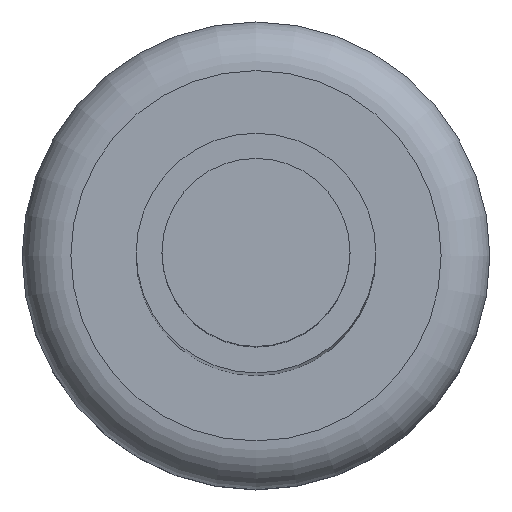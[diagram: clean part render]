
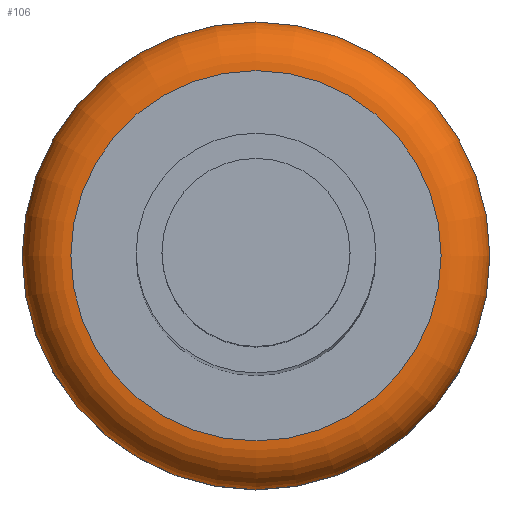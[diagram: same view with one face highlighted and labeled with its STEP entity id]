
A CAD part, top view. The second image highlights one B-rep face of the part: STEP entity #106.
In plain terms, the highlighted toroidal (fillet/blend) face has major radius 1.9 mm and minor radius 0.5 mm.
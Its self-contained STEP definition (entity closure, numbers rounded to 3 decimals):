
#35=TOROIDAL_SURFACE('',#280,1.9,0.5);
#106=ADVANCED_FACE('',(#124,#125),#35,.T.);
#124=FACE_BOUND('',#148,.T.);
#125=FACE_BOUND('',#149,.T.);
#148=EDGE_LOOP('',(#200));
#149=EDGE_LOOP('',(#201));
#200=ORIENTED_EDGE('',*,*,#225,.F.);
#201=ORIENTED_EDGE('',*,*,#226,.F.);
#205=VERTEX_POINT('',#359);
#206=VERTEX_POINT('',#362);
#225=EDGE_CURVE('',#205,#205,#251,.T.);
#226=EDGE_CURVE('',#206,#206,#252,.T.);
#251=CIRCLE('',#262,2.4);
#252=CIRCLE('',#264,1.9);
#262=AXIS2_PLACEMENT_3D('',#358,#293,#294);
#264=AXIS2_PLACEMENT_3D('',#361,#297,#298);
#280=AXIS2_PLACEMENT_3D('',#411,#347,#348);
#293=DIRECTION('',(0.,0.,-1.));
#294=DIRECTION('',(1.,0.,0.));
#297=DIRECTION('',(0.,0.,1.));
#298=DIRECTION('',(1.,0.,0.));
#347=DIRECTION('',(0.,0.,1.));
#348=DIRECTION('',(1.,0.,0.));
#358=CARTESIAN_POINT('',(-31.875,0.,1.95));
#359=CARTESIAN_POINT('',(-29.475,0.,1.95));
#361=CARTESIAN_POINT('',(-31.875,0.,2.45));
#362=CARTESIAN_POINT('',(-29.975,0.,2.45));
#411=CARTESIAN_POINT('',(-31.875,0.,1.95));
